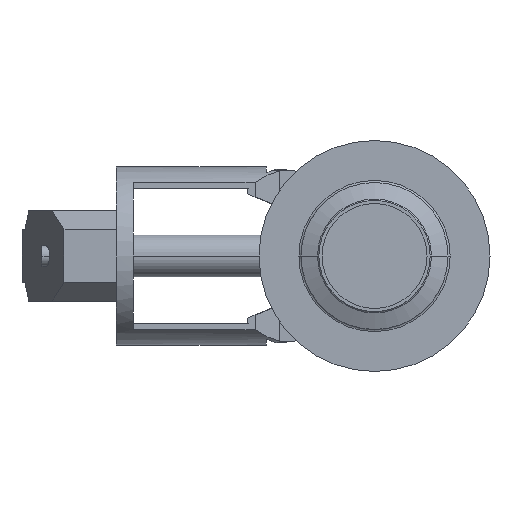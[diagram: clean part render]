
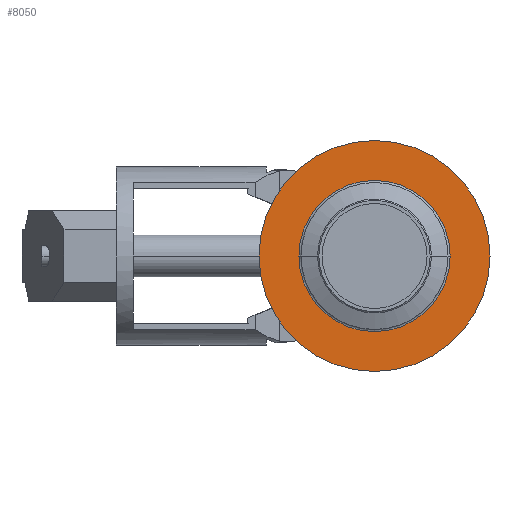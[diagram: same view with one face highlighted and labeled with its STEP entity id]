
A CAD part, left-side view. The second image highlights one B-rep face of the part: STEP entity #8050.
In plain terms, the highlighted planar face has unit normal (-1, 0, 0).
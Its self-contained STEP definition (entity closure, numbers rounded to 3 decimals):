
#7570=CARTESIAN_POINT('',(19.396,107.863,0.));
#7580=VERTEX_POINT('',#7570);
#7610=CARTESIAN_POINT('',(19.396,52.863,0.));
#7620=DIRECTION('',(-1.,0.,0.));
#7630=DIRECTION('',(0.,1.,0.));
#7640=AXIS2_PLACEMENT_3D('',#7610,#7620,#7630);
#7650=CIRCLE('',#7640,55.);
#7660=CARTESIAN_POINT('',(19.396,-2.137,
0.));
#7670=VERTEX_POINT('',#7660);
#7680=EDGE_CURVE('',#7580,#7670,#7650,.T.);
#7800=CARTESIAN_POINT('',(19.396,91.713,0.));
#7810=DIRECTION('',(1.,0.,0.));
#7820=DIRECTION('',(0.,-1.,0.));
#7830=AXIS2_PLACEMENT_3D('',#7800,#7810,#7820);
#7840=PLANE('',#7830);
#7850=EDGE_CURVE('',#7670,#7580,#7650,.T.);
#7860=ORIENTED_EDGE('',*,*,#7850,.T.);
#7870=ORIENTED_EDGE('',*,*,#7680,.T.);
#7880=EDGE_LOOP('',(#7870,#7860));
#7890=FACE_OUTER_BOUND('',#7880,.T.);
#7900=CARTESIAN_POINT('',(19.396,52.863,0.));
#7910=DIRECTION('',(-1.,0.,0.));
#7920=DIRECTION('',(0.,1.,0.));
#7930=AXIS2_PLACEMENT_3D('',#7900,#7910,#7920);
#7940=CIRCLE('',#7930,36.);
#7950=CARTESIAN_POINT('',(19.396,16.863,0.));
#7960=VERTEX_POINT('',#7950);
#7970=CARTESIAN_POINT('',(19.396,88.863,0.));
#7980=VERTEX_POINT('',#7970);
#7990=EDGE_CURVE('',#7960,#7980,#7940,.T.);
#8000=ORIENTED_EDGE('',*,*,#7990,.F.);
#8010=EDGE_CURVE('',#7980,#7960,#7940,.T.);
#8020=ORIENTED_EDGE('',*,*,#8010,.F.);
#8030=EDGE_LOOP('',(#8020,#8000));
#8040=FACE_BOUND('',#8030,.T.);
#8050=ADVANCED_FACE('',(#7890,#8040),#7840,.F.);
